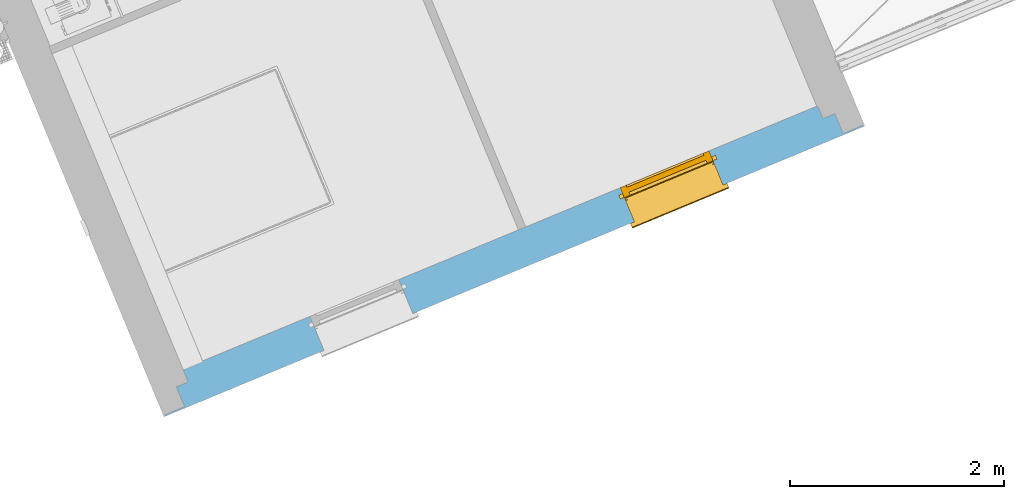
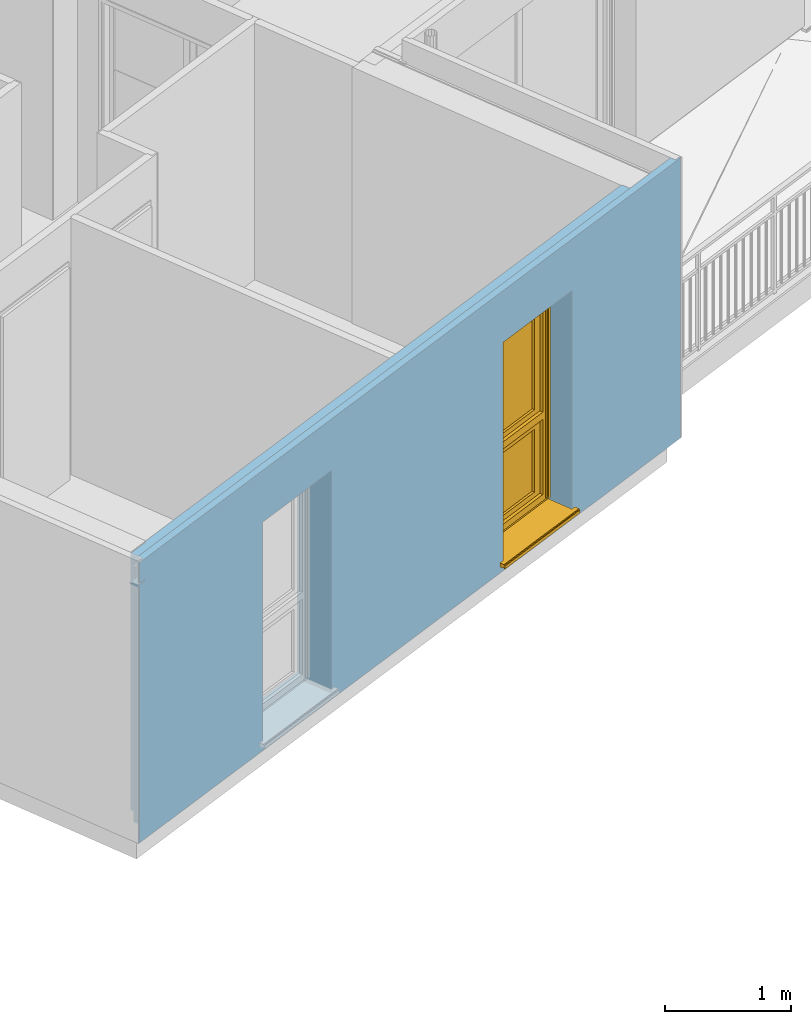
# One storey, part 11 of 91: 1 window, 2 openings, plus 1 element that does not belong to this part.
"""IFC2X3 building model written with IfcOpenShell, lengths in metres."""

from ifc_helpers import new_model, entity, si_unit, converted_unit, derived_unit, money_unit, direction, frame, origin_with_axes, place, context, subcontext, project, spatial, open_shell, faceted_brep, surface_model, source, transform, mapped, material, material_list, type_object, element, fill, save


model = new_model("IFC2X3")

# Units and contexts
model_context = context("Model", 3, precision=1e-05, world=origin_with_axes(), true_north=direction((0.0, 1.0)))
body_context = subcontext(model_context, "Body", "Model", "MODEL_VIEW")
ifc_project = project(units=[si_unit("LENGTHUNIT", "METRE"), si_unit("AREAUNIT", "SQUARE_METRE"), si_unit("VOLUMEUNIT", "CUBIC_METRE"), converted_unit("PLANEANGLEUNIT", "DEGREE", entity("IfcPlaneAngleMeasure", 0.0174532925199), si_unit("PLANEANGLEUNIT", "RADIAN"), dimensions=[0, 0, 0, 0, 0, 0, 0]), si_unit("SOLIDANGLEUNIT", "STERADIAN"), money_unit("EUR"), converted_unit("TIMEUNIT", "Year", entity("IfcTimeMeasure", 31556926.0), si_unit("TIMEUNIT", "SECOND"), dimensions=[0, 0, 1, 0, 0, 0, 0]), si_unit("MASSUNIT", "GRAM", prefix="KILO"), si_unit("THERMODYNAMICTEMPERATUREUNIT", "DEGREE_CELSIUS"), si_unit("LUMINOUSINTENSITYUNIT", "LUMEN"), si_unit("ENERGYUNIT", "JOULE", prefix="MEGA"), derived_unit("THERMALCONDUCTANCEUNIT", [(si_unit("POWERUNIT", "WATT"), 1), (si_unit("LENGTHUNIT", "METRE"), -1), (si_unit("THERMODYNAMICTEMPERATUREUNIT", "KELVIN"), -1)]), derived_unit("SPECIFICHEATCAPACITYUNIT", [(si_unit("ENERGYUNIT", "JOULE"), 1), (si_unit("MASSUNIT", "GRAM", prefix="KILO"), -1), (si_unit("THERMODYNAMICTEMPERATUREUNIT", "KELVIN"), -1)]), derived_unit("MASSDENSITYUNIT", [(si_unit("MASSUNIT", "GRAM", prefix="KILO"), 1), (si_unit("VOLUMEUNIT", "CUBIC_METRE"), -1)])], contexts=[model_context])

# Site, building, storey
site_placement = place(None, origin_with_axes())
site = spatial("IfcSite", under=ifc_project, at=site_placement, Name="Site", CompositionType="ELEMENT")
building_placement = place(site_placement, origin_with_axes())
building = spatial("IfcBuilding", under=site, at=building_placement, Name="Bâtiment", CompositionType="ELEMENT")
storey_placement = place(building_placement, frame((0.0, 0.0, 5.44), z_axis=(0.0, 0.0, 1.0), x_axis=(1.0, 0.0, 0.0)))
storey = spatial("IfcBuildingStorey", under=building, at=storey_placement, Name="R+2", CompositionType="ELEMENT", Elevation=5.44)

# Wall, openings, window
ifc_material_1 = material(Name="Finition int - Plaque de plâtre")
ifc_material_2 = material(Name="Isolation - Polystyrène extrudé")
ifc_material_3 = material(Name="Bloc ELITHERM")
ifc_material_4 = material(Name="Mortier")
ifc_material_5 = material(Name="Béton cellulaire")
ifc_material_6 = material(Name="Finition ext - Crépis")
ifc_material_list = material_list([ifc_material_1, ifc_material_2, ifc_material_3, ifc_material_4, ifc_material_5, ifc_material_6])
wall_type = type_object("IfcWallType", Name="Mur ALKERN + planelle 23 345 x 2720", PredefinedType="USERDEFINED")
wall_placement = place(storey_placement, frame((-20.1547284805, -28.2349360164, 0.0), z_axis=(0.0, 0.0, 1.0), x_axis=(0.923701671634, 0.383112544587, 0.0)))
wall = element("IfcWall", 1, at=wall_placement, inside=storey, type_object=wall_type, material=ifc_material_list, Name="Mue bloc ALKERN isolé", ObjectType="SOLIDWALL", context=body_context, shape_type="Brep", body=[
    faceted_brep([(0.53500001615, 0.335000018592, 2.3), (0.344999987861, 0.335000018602, 2.3), (0.344999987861, 0.334999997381, 0.0), (6.75719491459, 0.334999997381, 0.0), (6.75719491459, 0.334999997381, 2.49000000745), (0.53500001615, 0.335000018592, 2.49000000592), (1.6219994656, 0.335000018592, 2.22), (1.6219994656, 0.334999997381, 2.4), (2.5219994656, 0.334999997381, 2.4), (2.5219994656, 0.335000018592, 2.22), (2.5219994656, 0.335000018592, 0.12), (1.6219994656, 0.335000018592, 0.12), (4.76579728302, 0.335000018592, 2.22), (4.76579728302, 0.334999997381, 2.4), (5.66579728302, 0.334999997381, 2.4), (5.66579728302, 0.335000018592, 2.22), (5.66579728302, 0.335000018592, 0.12), (4.76579728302, 0.335000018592, 0.12), (0.535000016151, 0.344999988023, 2.3), (0.344999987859, 0.344999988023, 2.3), (0.344999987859, 0.344999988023, 0.0), (6.75719491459, 0.344999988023, 0.0), (6.75719491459, 0.344999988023, 2.49000000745), (0.535000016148, 0.344999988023, 2.49000000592), (1.6219994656, 0.344999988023, 2.22), (1.6219994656, 0.344999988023, 2.4), (1.6219994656, 0.344999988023, 0.12), (2.5219994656, 0.344999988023, 2.4), (2.5219994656, 0.344999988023, 2.22), (2.5219994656, 0.344999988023, 0.12), (4.76579728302, 0.344999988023, 2.22), (4.76579728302, 0.344999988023, 2.4), (4.76579728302, 0.344999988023, 0.12), (5.66579728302, 0.344999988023, 2.4), (5.66579728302, 0.344999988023, 2.22), (5.66579728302, 0.344999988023, 0.12)], [[[0, 1, 2, 3, 4, 5], [6, 7, 8, 9, 10, 11], [12, 13, 14, 15, 16, 17]], [[1, 0, 18, 19]], [[1, 19, 20, 2]], [[3, 2, 20, 21]], [[21, 22, 4, 3]], [[23, 5, 4, 22]], [[0, 5, 23, 18]], [[24, 25, 7, 6, 11, 26]], [[25, 27, 8, 7]], [[9, 8, 27, 28, 29, 10]], [[26, 11, 10, 29]], [[30, 31, 13, 12, 17, 32]], [[14, 13, 31, 33]], [[15, 14, 33, 34, 35, 16]], [[16, 35, 32, 17]], [[18, 23, 22, 21, 20, 19], [25, 24, 26, 29, 28, 27], [31, 30, 32, 35, 34, 33]]]),
    faceted_brep([(5.66579728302, 0.286, 0.12), (5.66579728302, 0.286, 0.06), (5.66579728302, 0.214999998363, 0.06), (5.66579728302, 0.214999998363, 0.12), (5.66579728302, 0.215, 2.22), (5.66579728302, 0.215, 2.4), (5.66579728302, 0.334999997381, 2.4), (5.66579728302, 0.334999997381, 2.22), (5.66579728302, 0.334999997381, 0.12), (4.76579728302, 0.286, 0.12), (4.76579728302, 0.286, 0.06), (4.76579728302, 0.214999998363, 0.06), (6.76719490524, 0.214999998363, 2.49000000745), (0.335000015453, 0.214999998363, 2.49), (0.335000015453, 0.214999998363, 0.0), (6.76719490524, 0.214999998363, 0.0), (2.5219994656, 0.215, 2.4), (2.5219994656, 0.215, 2.22), (2.5219994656, 0.214999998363, 0.12), (2.5219994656, 0.214999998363, 0.06), (1.6219994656, 0.214999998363, 0.06), (1.6219994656, 0.214999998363, 0.12), (1.6219994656, 0.215, 2.22), (1.6219994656, 0.215, 2.4), (4.76579728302, 0.214999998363, 0.12), (4.76579728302, 0.215, 2.22), (4.76579728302, 0.215, 2.4), (4.76579728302, 0.334999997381, 2.4), (6.76719490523, 0.334999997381, 0.0), (0.335000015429, 0.334999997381, 0.0), (0.335000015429, 0.334999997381, 2.49), (6.76719490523, 0.334999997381, 2.49000000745), (2.5219994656, 0.334999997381, 0.12), (2.5219994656, 0.334999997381, 2.22), (2.5219994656, 0.334999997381, 2.4), (1.6219994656, 0.334999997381, 2.4), (1.6219994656, 0.334999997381, 2.22), (1.6219994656, 0.334999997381, 0.12), (4.76579728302, 0.334999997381, 2.22), (4.76579728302, 0.334999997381, 0.12), (2.5219994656, 0.286, 0.12), (2.5219994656, 0.286, 0.06), (1.6219994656, 0.286, 0.06), (1.6219994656, 0.286, 0.12)], [[[0, 1, 2, 3, 4, 5, 6, 7, 8]], [[0, 9, 10, 1]], [[11, 2, 1, 10]], [[12, 13, 14, 15], [16, 17, 18, 19, 20, 21, 22, 23], [11, 24, 25, 26, 5, 4, 3, 2]], [[26, 27, 6, 5]], [[28, 29, 30, 31], [32, 33, 34, 35, 36, 37], [8, 7, 6, 27, 38, 39]], [[9, 0, 8, 39]], [[24, 11, 10, 9, 39, 38, 27, 26, 25]], [[31, 30, 13, 12]], [[29, 14, 13, 30]], [[15, 14, 29, 28]], [[28, 31, 12, 15]], [[34, 33, 32, 40, 41, 19, 18, 17, 16]], [[20, 19, 41, 42]], [[35, 23, 22, 21, 20, 42, 43, 37, 36]], [[23, 35, 34, 16]], [[43, 40, 32, 37]], [[40, 43, 42, 41]]]),
    faceted_brep([(5.66579728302, 0.215, 0.12), (5.66579728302, 0.215, 0.06), (5.66579728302, 0.015, 0.06), (5.66579728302, 0.015, 0.12), (5.66579728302, 0.015, 2.22), (5.66579728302, 0.215, 2.22), (0.214999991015, 0.215, 0.0), (0.214999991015, 0.215, 2.49), (6.88719490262, 0.215, 2.49000000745), (6.88719490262, 0.215, 0.0), (2.5219994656, 0.215, 0.06), (2.5219994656, 0.215, 0.12), (2.5219994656, 0.215, 2.22), (1.6219994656, 0.215, 2.22), (1.6219994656, 0.215, 0.12), (1.6219994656, 0.215, 0.06), (4.76579728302, 0.215, 2.22), (4.76579728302, 0.215, 0.12), (4.76579728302, 0.215, 0.06), (4.76579728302, 0.015, 0.06), (0.214999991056, 0.015, 2.49), (0.214999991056, 0.015, 0.0), (6.88719490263, 0.015, 0.0), (6.88719490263, 0.015, 2.49000000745), (1.6219994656, 0.015, 0.06), (1.6219994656, 0.015, 0.12), (1.6219994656, 0.015, 2.22), (2.5219994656, 0.015, 2.22), (2.5219994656, 0.015, 0.12), (2.5219994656, 0.015, 0.06), (4.76579728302, 0.015, 0.12), (4.76579728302, 0.015, 2.22), (0.214999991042, 0.0829999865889, 2.49), (6.88719490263, 0.0829999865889, 2.49000000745)], [[[0, 1, 2, 3, 4, 5]], [[6, 7, 8, 9], [10, 11, 12, 13, 14, 15], [1, 0, 5, 16, 17, 18]], [[19, 2, 1, 18]], [[20, 21, 22, 23], [24, 25, 26, 27, 28, 29], [19, 30, 31, 4, 3, 2]], [[31, 16, 5, 4]], [[7, 6, 21, 20, 32]], [[7, 32, 33, 8]], [[9, 8, 33, 23, 22]], [[21, 6, 9, 22]], [[11, 10, 29, 28, 27, 12]], [[12, 27, 26, 13]], [[25, 24, 15, 14, 13, 26]], [[10, 15, 24, 29]], [[30, 19, 18, 17, 16, 31]], [[32, 20, 23, 33]]]),
    faceted_brep([(7.01919490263, 0.015, 2.49), (7.01919490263, 0.015, 2.5), (1.60902011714e-08, 0.015, 2.5), (1.60902011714e-08, 0.015, 2.49), (7.01919490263, 0.083, 2.5), (7.01919490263, 0.083, 2.49), (1.60762709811e-08, 0.083, 2.5), (1.60762709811e-08, 0.083, 2.49)], [[[0, 1, 2, 3]], [[4, 1, 0, 5]], [[1, 4, 6, 2]], [[7, 3, 2, 6]], [[5, 0, 3, 7]], [[4, 5, 7, 6]]]),
    faceted_brep([(0.0630000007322, 0.0630000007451, 2.72), (0.063000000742, 0.015, 2.72), (7.03919490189, 0.015, 2.72), (7.03919490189, 0.0630000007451, 2.72), (0.063000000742, 0.015, 2.5200000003), (0.0630000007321, 0.0630000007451, 2.5200000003), (0.0829999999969, 0.015, 2.52), (0.0829999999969, 0.015, 2.51), (0.0149999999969, 0.015, 2.51), (0.0, 0.015, 2.50999999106), (1.60902011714e-08, 0.015, 2.5000000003), (7.03919490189, 0.015, 2.5000000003), (7.03919490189, 0.0630000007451, 2.5000000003), (1.608036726e-08, 0.0630000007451, 2.5000000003), (0.0, 0.0630000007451, 2.50999999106), (0.0149999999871, 0.0630000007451, 2.51), (0.0829999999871, 0.0630000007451, 2.51), (0.0829999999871, 0.0630000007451, 2.52)], [[[0, 1, 2, 3]], [[4, 1, 0, 5]], [[1, 4, 6, 7, 8, 9, 10, 11, 2]], [[3, 2, 11, 12]], [[5, 0, 3, 12, 13, 14, 15, 16, 17]], [[4, 5, 17, 6]], [[7, 6, 17, 16]], [[8, 7, 16, 15]], [[8, 15, 14, 9]], [[9, 14, 13, 10]], [[12, 11, 10, 13]]]),
    faceted_brep([(5.66579728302, 0.0149999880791, 0.12), (5.66579728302, 1.19209389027e-08, 0.12), (5.66579728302, 1.19209389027e-08, 2.22), (5.66579728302, 0.0149999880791, 2.22), (5.66579728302, 1.19209389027e-08, 0.06), (5.66579728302, 0.0149999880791, 0.06), (0.0150000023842, 1.19209389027e-08, 0.0), (7.08719491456, 0.0, 0.0), (7.08719491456, 0.0, 2.72), (0.0150000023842, 1.19209389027e-08, 2.72), (0.0150000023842, 1.19209389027e-08, 2.52), (0.083, 1.19209389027e-08, 2.52), (0.083, 1.19209389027e-08, 2.51), (0.0, 1.19209389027e-08, 2.50999999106), (0.0, 1.19209389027e-08, 2.49), (0.0150000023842, 1.19209389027e-08, 2.49), (1.6219994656, 1.19209389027e-08, 0.06), (1.6219994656, 0.0, 0.12), (1.6219994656, 0.0, 2.22), (2.5219994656, 0.0, 2.22), (2.5219994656, 0.0, 0.12), (2.5219994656, 1.19209389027e-08, 0.06), (4.76579728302, 1.19209424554e-08, 0.06), (4.76579728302, 1.19209389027e-08, 0.12), (4.76579728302, 1.19209424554e-08, 2.22), (4.76579728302, 0.0149999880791, 2.22), (0.0, 0.0149999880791, 2.50999999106), (0.0829999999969, 0.0149999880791, 2.51), (0.0829999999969, 0.0149999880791, 2.52), (0.0150000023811, 0.0149999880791, 2.52), (0.0150000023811, 0.0149999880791, 2.72), (7.08719491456, 0.0149999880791, 2.72), (7.08719491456, 0.0149999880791, 0.0), (0.0150000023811, 0.0149999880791, 0.0), (0.0150000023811, 0.0149999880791, 2.49), (0.0, 0.0149999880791, 2.49), (2.5219994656, 0.0149999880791, 0.06), (2.5219994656, 0.0149999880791, 0.12), (2.5219994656, 0.0149999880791, 2.22), (1.6219994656, 0.0149999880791, 2.22), (1.6219994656, 0.0149999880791, 0.12), (1.6219994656, 0.0149999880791, 0.06), (4.76579728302, 0.0149999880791, 0.12), (4.76579728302, 0.0149999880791, 0.06)], [[[0, 1, 2, 3]], [[4, 1, 0, 5]], [[6, 7, 8, 9, 10, 11, 12, 13, 14, 15], [16, 17, 18, 19, 20, 21], [22, 23, 24, 2, 1, 4]], [[24, 25, 3, 2]], [[26, 27, 28, 29, 30, 31, 32, 33, 34, 35], [36, 37, 38, 39, 40, 41], [5, 0, 3, 25, 42, 43]], [[22, 4, 5, 43]], [[7, 6, 33, 32]], [[32, 31, 8, 7]], [[31, 30, 9, 8]], [[29, 10, 9, 30]], [[11, 10, 29, 28]], [[27, 12, 11, 28]], [[13, 12, 27, 26]], [[14, 13, 26, 35]], [[34, 15, 14, 35]], [[33, 6, 15, 34]], [[16, 41, 40, 17]], [[39, 18, 17, 40]], [[38, 19, 18, 39]], [[19, 38, 37, 20]], [[37, 36, 21, 20]], [[36, 41, 16, 21]], [[42, 23, 22, 43]], [[23, 42, 25, 24]]]),
])
opening_1_placement = place(wall_placement, frame((2.0719994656, 0.0, 0.12), z_axis=(0.0, 0.0, 1.0), x_axis=(1.0, 0.0, 0.0)))
element("IfcOpeningElement", 2, at=opening_1_placement, cuts=wall, Name="MEN 90", context=body_context, shape_type="Brep", body=[
    faceted_brep([(-0.45, 0.834999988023, 0.0), (0.45, 0.834999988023, 0.0), (0.45, 0.245, 0.0), (-0.45, 0.245, 0.0), (-0.45, 0.834999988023, 2.1), (0.45, 0.834999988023, 2.1), (0.45, 0.245, 2.1), (-0.45, 0.245, 2.1)], [[[0, 1, 2, 3]], [[0, 4, 5, 1]], [[1, 5, 6, 2]], [[3, 2, 6, 7]], [[4, 0, 3, 7]], [[5, 4, 7, 6]]]),
    faceted_brep([(-0.45, -0.344999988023, 0.0), (-0.45, -0.344999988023, 2.1), (-0.45, 0.245, 2.1), (-0.45, 0.245, 0.0), (0.45, -0.344999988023, 0.0), (0.45, -0.344999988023, 2.1), (0.45, 0.245, 2.1), (0.45, 0.245, 0.0)], [[[0, 1, 2, 3]], [[0, 4, 5, 1]], [[1, 5, 6, 2]], [[3, 2, 6, 7]], [[4, 0, 3, 7]], [[5, 4, 7, 6]]]),
    faceted_brep([(-0.45, -0.344999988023, 0.0), (-0.45, -0.344999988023, 2.1), (-0.45, 0.245, 2.1), (-0.45, 0.245, 0.0), (0.45, -0.344999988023, 0.0), (0.45, -0.344999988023, 2.1), (0.45, 0.245, 2.1), (0.45, 0.245, 0.0)], [[[0, 1, 2, 3]], [[0, 4, 5, 1]], [[1, 5, 6, 2]], [[3, 2, 6, 7]], [[4, 0, 3, 7]], [[5, 4, 7, 6]]]),
    faceted_brep([(-0.45, 0.804999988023, 2.1), (0.45, 0.804999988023, 2.1), (0.45, 0.215, 2.1), (-0.45, 0.215, 2.1), (-0.45, 0.804999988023, 2.28), (0.45, 0.804999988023, 2.28), (0.45, 0.215, 2.28), (-0.45, 0.215, 2.28)], [[[0, 1, 2, 3]], [[0, 4, 5, 1]], [[1, 5, 6, 2]], [[3, 2, 6, 7]], [[4, 0, 3, 7]], [[5, 4, 7, 6]]]),
    faceted_brep([(-0.45, -0.303999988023, 0.0), (0.45, -0.303999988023, 0.0), (0.45, 0.286, 0.0), (-0.45, 0.286, 0.0), (-0.45, -0.303999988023, -0.06), (0.45, -0.303999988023, -0.06), (0.45, 0.286, -0.06), (-0.45, 0.286, -0.06)], [[[0, 1, 2, 3]], [[0, 4, 5, 1]], [[1, 5, 6, 2]], [[3, 2, 6, 7]], [[4, 0, 3, 7]], [[5, 4, 7, 6]]]),
])
opening_2_placement = place(wall_placement, frame((5.21579728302, 0.0, 0.12), z_axis=(0.0, 0.0, 1.0), x_axis=(1.0, 0.0, 0.0)))
opening_2 = element("IfcOpeningElement", 3, at=opening_2_placement, cuts=wall, Name="MEN 91", context=body_context, shape_type="Brep", body=[
    faceted_brep([(0.45, 0.245, 0.0), (-0.45, 0.245, 0.0), (-0.45, 0.834999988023, 0.0), (0.45, 0.834999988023, 0.0), (0.45, 0.245, 2.1), (-0.45, 0.245, 2.1), (-0.45, 0.834999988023, 2.1), (0.45, 0.834999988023, 2.1)], [[[0, 1, 2, 3]], [[0, 4, 5, 1]], [[1, 5, 6, 2]], [[3, 2, 6, 7]], [[4, 0, 3, 7]], [[5, 4, 7, 6]]]),
    faceted_brep([(0.45, 0.245, 0.0), (0.45, 0.245, 2.1), (0.45, -0.344999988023, 2.1), (0.45, -0.344999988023, 0.0), (-0.45, 0.245, 0.0), (-0.45, 0.245, 2.1), (-0.45, -0.344999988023, 2.1), (-0.45, -0.344999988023, 0.0)], [[[0, 1, 2, 3]], [[0, 4, 5, 1]], [[1, 5, 6, 2]], [[3, 2, 6, 7]], [[4, 0, 3, 7]], [[5, 4, 7, 6]]]),
    faceted_brep([(0.45, 0.245, 0.0), (0.45, 0.245, 2.1), (0.45, -0.344999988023, 2.1), (0.45, -0.344999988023, 0.0), (-0.45, 0.245, 0.0), (-0.45, 0.245, 2.1), (-0.45, -0.344999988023, 2.1), (-0.45, -0.344999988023, 0.0)], [[[0, 1, 2, 3]], [[0, 4, 5, 1]], [[1, 5, 6, 2]], [[3, 2, 6, 7]], [[4, 0, 3, 7]], [[5, 4, 7, 6]]]),
    faceted_brep([(0.45, 0.215, 2.1), (-0.45, 0.215, 2.1), (-0.45, 0.804999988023, 2.1), (0.45, 0.804999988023, 2.1), (0.45, 0.215, 2.28), (-0.45, 0.215, 2.28), (-0.45, 0.804999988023, 2.28), (0.45, 0.804999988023, 2.28)], [[[0, 1, 2, 3]], [[0, 4, 5, 1]], [[1, 5, 6, 2]], [[3, 2, 6, 7]], [[4, 0, 3, 7]], [[5, 4, 7, 6]]]),
    faceted_brep([(0.45, 0.286, 0.0), (-0.45, 0.286, 0.0), (-0.45, -0.303999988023, 0.0), (0.45, -0.303999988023, 0.0), (0.45, 0.286, -0.06), (-0.45, 0.286, -0.06), (-0.45, -0.303999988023, -0.06), (0.45, -0.303999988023, -0.06)], [[[0, 1, 2, 3]], [[0, 4, 5, 1]], [[1, 5, 6, 2]], [[3, 2, 6, 7]], [[4, 0, 3, 7]], [[5, 4, 7, 6]]]),
])
window_style = type_object("IfcWindowStyle", Name="Baie générique 2017 v2", ConstructionType="NOTDEFINED", OperationType="NOTDEFINED", ParameterTakesPrecedence=False, Sizeable=False)
shared_shape = source(origin_with_axes(), body_context, "Body", "SurfaceModel", [
    faceted_brep([(0.45, 0.0, 2.1), (-0.45, 0.0, 2.1), (-0.45, 0.0, 0.0), (0.45, 0.0, 0.0), (-0.39, 0.0, 0.85), (-0.39, 0.0, 2.05), (0.39, 0.0, 2.05), (0.39, 0.0, 0.85), (-0.39, 0.0, 0.78), (0.39, 0.0, 0.78), (0.39, 0.0, 0.05), (-0.39, 0.0, 0.05), (0.45, 0.1, 2.1), (-0.45, 0.1, 2.1), (-0.45, 0.1, 0.0), (0.45, 0.1, 0.0), (-0.39, 0.1, 0.85), (-0.39, 0.1, 2.05), (0.39, 0.1, 2.05), (0.39, 0.1, 0.85), (-0.39, 0.1, 0.78), (0.39, 0.1, 0.78), (0.39, 0.1, 0.05), (-0.39, 0.1, 0.05)], [[[0, 1, 2, 3], [4, 5, 6, 7], [8, 9, 10, 11]], [[1, 0, 12, 13]], [[2, 1, 13, 14]], [[3, 2, 14, 15]], [[0, 3, 15, 12]], [[16, 17, 5, 4]], [[6, 5, 17, 18]], [[7, 6, 18, 19]], [[4, 7, 19, 16]], [[20, 21, 9, 8]], [[21, 22, 10, 9]], [[11, 10, 22, 23]], [[8, 11, 23, 20]], [[14, 13, 12, 15], [16, 19, 18, 17], [20, 23, 22, 21]]]),
    faceted_brep([(-0.39, 0.08, 2.05), (0.39, 0.08, 2.05), (0.39, 0.08, 0.85), (-0.39, 0.08, 0.85), (-0.32, 0.08, 1.98), (-0.32, 0.08, 0.9), (0.32, 0.08, 0.9), (0.32, 0.08, 1.98), (-0.39, 0.03, 2.05), (0.39, 0.03, 2.05), (0.39, 0.03, 0.85), (-0.39, 0.03, 0.85), (-0.32, 0.03, 1.98), (-0.32, 0.03, 0.9), (0.32, 0.03, 0.9), (0.32, 0.03, 1.98)], [[[0, 1, 2, 3], [4, 5, 6, 7]], [[0, 8, 9, 1]], [[9, 10, 2, 1]], [[10, 11, 3, 2]], [[3, 11, 8, 0]], [[4, 12, 13, 5]], [[13, 14, 6, 5]], [[14, 15, 7, 6]], [[7, 15, 12, 4]], [[9, 8, 11, 10], [13, 12, 15, 14]]]),
    surface_model("IfcShellBasedSurfaceModel", [(0.39, 0.08, 0.85), (0.39, 0.08, 2.05), (0.39, 0.055, 2.05), (0.39, 0.055, 0.85)], [open_shell([[[0, 1, 2, 3]]])]),
    surface_model("IfcShellBasedSurfaceModel", [(-0.39, 0.08, 0.85), (-0.39, 0.08, 2.05), (-0.39, 0.055, 2.05), (-0.39, 0.055, 0.85)], [open_shell([[[0, 1, 2, 3]]])]),
    surface_model("IfcShellBasedSurfaceModel", [(0.39, 0.08, 0.85), (-0.39, 0.08, 0.85), (-0.39, 0.055, 0.85), (0.39, 0.055, 0.85)], [open_shell([[[0, 1, 2, 3]]])]),
    surface_model("IfcShellBasedSurfaceModel", [(0.39, 0.08, 2.05), (-0.39, 0.08, 2.05), (-0.39, 0.055, 2.05), (0.39, 0.055, 2.05)], [open_shell([[[0, 1, 2, 3]]])]),
    surface_model("IfcShellBasedSurfaceModel", [(0.39, 0.055, 0.85), (0.39, 0.055, 2.05), (0.39, 0.03, 2.05), (0.39, 0.03, 0.85)], [open_shell([[[0, 1, 2, 3]]])]),
    surface_model("IfcShellBasedSurfaceModel", [(-0.39, 0.055, 0.85), (-0.39, 0.055, 2.05), (-0.39, 0.03, 2.05), (-0.39, 0.03, 0.85)], [open_shell([[[0, 1, 2, 3]]])]),
    surface_model("IfcShellBasedSurfaceModel", [(0.39, 0.055, 0.85), (-0.39, 0.055, 0.85), (-0.39, 0.03, 0.85), (0.39, 0.03, 0.85)], [open_shell([[[0, 1, 2, 3]]])]),
    surface_model("IfcShellBasedSurfaceModel", [(0.39, 0.055, 2.05), (-0.39, 0.055, 2.05), (-0.39, 0.03, 2.05), (0.39, 0.03, 2.05)], [open_shell([[[0, 1, 2, 3]]])]),
    faceted_brep([(0.32, 0.0575, 0.9), (0.32, 0.0525, 0.9), (-0.32, 0.0525, 0.9), (-0.32, 0.0575, 0.9), (0.32, 0.0575, 1.98), (0.32, 0.0525, 1.98), (-0.32, 0.0525, 1.98), (-0.32, 0.0575, 1.98)], [[[0, 1, 2, 3]], [[4, 5, 1, 0]], [[1, 5, 6, 2]], [[3, 2, 6, 7]], [[0, 3, 7, 4]], [[7, 6, 5, 4]]]),
    faceted_brep([(-0.39, 0.08, 0.78), (0.39, 0.08, 0.78), (0.39, 0.08, 0.05), (-0.39, 0.08, 0.05), (-0.32, 0.08, 0.71), (-0.32, 0.08, 0.1), (0.32, 0.08, 0.1), (0.32, 0.08, 0.71), (-0.39, 0.03, 0.78), (0.39, 0.03, 0.78), (0.39, 0.03, 0.05), (-0.39, 0.03, 0.05), (-0.32, 0.03, 0.71), (-0.32, 0.03, 0.1), (0.32, 0.03, 0.1), (0.32, 0.03, 0.71)], [[[0, 1, 2, 3], [4, 5, 6, 7]], [[0, 8, 9, 1]], [[9, 10, 2, 1]], [[10, 11, 3, 2]], [[3, 11, 8, 0]], [[4, 12, 13, 5]], [[13, 14, 6, 5]], [[14, 15, 7, 6]], [[7, 15, 12, 4]], [[9, 8, 11, 10], [13, 12, 15, 14]]]),
    surface_model("IfcShellBasedSurfaceModel", [(0.39, 0.08, 0.05), (0.39, 0.08, 0.78), (0.39, 0.055, 0.78), (0.39, 0.055, 0.05)], [open_shell([[[0, 1, 2, 3]]])]),
    surface_model("IfcShellBasedSurfaceModel", [(-0.39, 0.08, 0.05), (-0.39, 0.08, 0.78), (-0.39, 0.055, 0.78), (-0.39, 0.055, 0.05)], [open_shell([[[0, 1, 2, 3]]])]),
    surface_model("IfcShellBasedSurfaceModel", [(0.39, 0.08, 0.05), (-0.39, 0.08, 0.05), (-0.39, 0.055, 0.05), (0.39, 0.055, 0.05)], [open_shell([[[0, 1, 2, 3]]])]),
    surface_model("IfcShellBasedSurfaceModel", [(0.39, 0.08, 0.78), (-0.39, 0.08, 0.78), (-0.39, 0.055, 0.78), (0.39, 0.055, 0.78)], [open_shell([[[0, 1, 2, 3]]])]),
    surface_model("IfcShellBasedSurfaceModel", [(0.39, 0.055, 0.05), (0.39, 0.055, 0.78), (0.39, 0.03, 0.78), (0.39, 0.03, 0.05)], [open_shell([[[0, 1, 2, 3]]])]),
    surface_model("IfcShellBasedSurfaceModel", [(-0.39, 0.055, 0.05), (-0.39, 0.055, 0.78), (-0.39, 0.03, 0.78), (-0.39, 0.03, 0.05)], [open_shell([[[0, 1, 2, 3]]])]),
    surface_model("IfcShellBasedSurfaceModel", [(0.39, 0.055, 0.05), (-0.39, 0.055, 0.05), (-0.39, 0.03, 0.05), (0.39, 0.03, 0.05)], [open_shell([[[0, 1, 2, 3]]])]),
    surface_model("IfcShellBasedSurfaceModel", [(0.39, 0.055, 0.78), (-0.39, 0.055, 0.78), (-0.39, 0.03, 0.78), (0.39, 0.03, 0.78)], [open_shell([[[0, 1, 2, 3]]])]),
    faceted_brep([(0.32, 0.0575, 0.1), (0.32, 0.0525, 0.1), (-0.32, 0.0525, 0.1), (-0.32, 0.0575, 0.1), (0.32, 0.0575, 0.71), (0.32, 0.0525, 0.71), (-0.32, 0.0525, 0.71), (-0.32, 0.0575, 0.71)], [[[0, 1, 2, 3]], [[4, 5, 1, 0]], [[1, 5, 6, 2]], [[3, 2, 6, 7]], [[0, 3, 7, 4]], [[7, 6, 5, 4]]]),
    faceted_brep([(0.45, -0.03, 0.0), (0.45, -0.03, 2.1), (0.425, -0.03, 2.1), (0.425, -0.03, 0.0), (0.45, -0.002, 0.0), (0.45, -0.002, 2.1), (0.425, -0.002, 2.1), (0.425, -0.004, 2.1), (0.448, -0.004, 2.1), (0.448, -0.028, 2.1), (0.425, -0.028, 2.1), (0.425, -0.028, 0.0), (0.448, -0.028, 0.0), (0.448, -0.004, 0.0), (0.425, -0.004, 0.0), (0.425, -0.002, 0.0)], [[[0, 1, 2, 3]], [[4, 5, 1, 0]], [[1, 5, 6, 7, 8, 9, 10, 2]], [[3, 2, 10, 11]], [[0, 3, 11, 12, 13, 14, 15, 4]], [[15, 6, 5, 4]], [[14, 7, 6, 15]], [[13, 8, 7, 14]], [[12, 9, 8, 13]], [[11, 10, 9, 12]]]),
    faceted_brep([(-0.45, -0.03, 0.0), (-0.425, -0.03, 0.0), (-0.425, -0.03, 2.1), (-0.45, -0.03, 2.1), (-0.45, -0.002, 0.0), (-0.425, -0.002, 0.0), (-0.425, -0.004, 0.0), (-0.448, -0.004, 0.0), (-0.448, -0.028, 0.0), (-0.425, -0.028, 0.0), (-0.425, -0.028, 2.1), (-0.448, -0.028, 2.1), (-0.448, -0.004, 2.1), (-0.425, -0.004, 2.1), (-0.425, -0.002, 2.1), (-0.45, -0.002, 2.1)], [[[0, 1, 2, 3]], [[0, 4, 5, 6, 7, 8, 9, 1]], [[1, 9, 10, 2]], [[3, 2, 10, 11, 12, 13, 14, 15]], [[4, 0, 3, 15]], [[5, 4, 15, 14]], [[6, 5, 14, 13]], [[7, 6, 13, 12]], [[8, 7, 12, 11]], [[9, 8, 11, 10]]]),
    faceted_brep([(-0.448, -0.028, 2.1), (-0.448, -0.028, 2.278), (0.448, -0.028, 2.278), (0.448, -0.028, 2.1), (-0.448, -0.03, 2.1), (-0.448, -0.03, 2.28), (-0.448, 0.17, 2.28), (-0.448, 0.17, 2.1), (-0.448, 0.168, 2.1), (-0.448, 0.168, 2.278), (0.448, 0.168, 2.278), (0.448, 0.168, 2.1), (0.448, 0.17, 2.1), (0.448, 0.17, 2.28), (0.448, -0.03, 2.28), (0.448, -0.03, 2.1)], [[[0, 1, 2, 3]], [[0, 4, 5, 6, 7, 8, 9, 1]], [[1, 9, 10, 2]], [[3, 2, 10, 11, 12, 13, 14, 15]], [[4, 0, 3, 15]], [[5, 4, 15, 14]], [[6, 5, 14, 13]], [[7, 6, 13, 12]], [[8, 7, 12, 11]], [[9, 8, 11, 10]]]),
    faceted_brep([(-0.448, 0.0724697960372, 2.17436337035), (-0.448, 0.0555495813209, 2.17050144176), (-0.448, 0.041980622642, 2.18132232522), (-0.448, 0.041980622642, 2.19867767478), (-0.448, 0.0555495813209, 2.20949855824), (-0.448, 0.0724697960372, 2.20563662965), (-0.448, 0.08, 2.19), (0.448, 0.0724697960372, 2.17436337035), (0.448, 0.0555495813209, 2.17050144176), (0.448, 0.041980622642, 2.18132232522), (0.448, 0.041980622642, 2.19867767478), (0.448, 0.0555495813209, 2.20949855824), (0.448, 0.0724697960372, 2.20563662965), (0.448, 0.08, 2.19)], [[[0, 1, 2, 3, 4, 5, 6]], [[1, 0, 7, 8]], [[2, 1, 8, 9]], [[3, 2, 9, 10]], [[4, 3, 10, 11]], [[5, 4, 11, 12]], [[6, 5, 12, 13]], [[0, 6, 13, 7]], [[7, 13, 12, 11, 10, 9, 8]]]),
    faceted_brep([(-0.438, 0.130275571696, 2.15615706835), (-0.438, 0.108632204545, 2.12901714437), (-0.438, 0.0773566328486, 2.11395562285), (-0.438, 0.0426433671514, 2.11395562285), (-0.438, 0.011367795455, 2.12901714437), (-0.438, -0.0102755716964, 2.15615706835), (-0.438, -0.018, 2.19), (-0.438, -0.0102755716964, 2.22384293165), (-0.438, 0.011367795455, 2.25098285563), (-0.438, 0.0426433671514, 2.26604437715), (-0.438, 0.0773566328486, 2.26604437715), (-0.438, 0.108632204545, 2.25098285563), (-0.438, 0.130275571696, 2.22384293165), (-0.438, 0.138, 2.19), (0.438, 0.130275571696, 2.15615706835), (0.438, 0.108632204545, 2.12901714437), (0.438, 0.0773566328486, 2.11395562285), (0.438, 0.0426433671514, 2.11395562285), (0.438, 0.011367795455, 2.12901714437), (0.438, -0.0102755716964, 2.15615706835), (0.438, -0.018, 2.19), (0.438, -0.0102755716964, 2.22384293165), (0.438, 0.011367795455, 2.25098285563), (0.438, 0.0426433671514, 2.26604437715), (0.438, 0.0773566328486, 2.26604437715), (0.438, 0.108632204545, 2.25098285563), (0.438, 0.130275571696, 2.22384293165), (0.438, 0.138, 2.19)], [[[0, 1, 2, 3, 4, 5, 6, 7, 8, 9, 10, 11, 12, 13]], [[1, 0, 14, 15]], [[2, 1, 15, 16]], [[3, 2, 16, 17]], [[4, 3, 17, 18]], [[5, 4, 18, 19]], [[6, 5, 19, 20]], [[7, 6, 20, 21]], [[8, 7, 21, 22]], [[9, 8, 22, 23]], [[10, 9, 23, 24]], [[11, 10, 24, 25]], [[12, 11, 25, 26]], [[13, 12, 26, 27]], [[0, 13, 27, 14]], [[14, 27, 26, 25, 24, 23, 22, 21, 20, 19, 18, 17, 16, 15]]]),
    faceted_brep([(-0.45, 0.17, 2.1), (-0.45, 0.17, 2.28), (-0.448, 0.17, 2.28), (-0.448, 0.17, 2.1), (-0.45, -0.03, 2.1), (-0.45, -0.03, 2.28), (-0.448, -0.03, 2.28), (-0.448, -0.03, 2.1)], [[[0, 1, 2, 3]], [[0, 4, 5, 1]], [[1, 5, 6, 2]], [[3, 2, 6, 7]], [[4, 0, 3, 7]], [[5, 4, 7, 6]]]),
    faceted_brep([(0.448, 0.17, 2.1), (0.448, 0.17, 2.28), (0.45, 0.17, 2.28), (0.45, 0.17, 2.1), (0.448, -0.03, 2.1), (0.448, -0.03, 2.28), (0.45, -0.03, 2.28), (0.45, -0.03, 2.1)], [[[0, 1, 2, 3]], [[0, 4, 5, 1]], [[1, 5, 6, 2]], [[3, 2, 6, 7]], [[4, 0, 3, 7]], [[5, 4, 7, 6]]]),
    faceted_brep([(-0.448, -0.004, 2.1), (-0.448, 0.168, 2.1), (0.448, 0.168, 2.1), (0.448, -0.004, 2.1), (-0.448, -0.004, 2.102), (-0.448, 0.168, 2.102), (0.448, 0.168, 2.102), (0.448, -0.004, 2.102)], [[[0, 1, 2, 3]], [[0, 4, 5, 1]], [[1, 5, 6, 2]], [[3, 2, 6, 7]], [[4, 0, 3, 7]], [[5, 4, 7, 6]]]),
    faceted_brep([(-0.438, -0.006, 2.1), (-0.438, -0.006, 2.19), (0.438, -0.006, 2.19), (0.438, -0.006, 2.1), (-0.438, -0.026, 2.1), (-0.438, -0.026, 2.19), (0.438, -0.026, 2.19), (0.438, -0.026, 2.1)], [[[0, 1, 2, 3]], [[1, 0, 4, 5]], [[2, 1, 5, 6]], [[3, 2, 6, 7]], [[4, 0, 3, 7]], [[5, 4, 7, 6]]]),
    faceted_brep([(-0.45, -0.00167949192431, -0.01), (0.45, -0.00167949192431, -0.01), (0.45, 0.0, -0.00373205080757), (0.49, 0.0, -0.00373205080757), (0.49, 0.001, 0.0), (-0.49, 0.001, 0.0), (-0.49, 0.0, -0.00373205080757), (-0.45, 0.0, -0.00373205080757), (-0.45, -0.009, -0.0173205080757), (0.45, -0.009, -0.0173205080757), (0.45, -0.245, -0.02), (0.45, -0.245, -0.06), (0.45, 0.0, -0.06), (0.45, -0.019, -0.02), (0.49, 0.0, -0.06), (0.49, 0.041, -0.06), (0.49, 0.041, 0.0), (-0.49, 0.041, 0.0), (-0.49, 0.041, -0.06), (-0.49, 0.0, -0.06), (-0.45, 0.0, -0.06), (-0.45, -0.245, -0.06), (-0.45, -0.245, -0.02), (-0.45, -0.019, -0.02), (0.49, -0.245, -0.02), (0.49, -0.245, -0.06), (0.49, -0.275, -0.06), (-0.49, -0.275, -0.06), (-0.49, -0.245, -0.06), (-0.49, -0.245, -0.02), (-0.49, -0.285, -0.02), (0.49, -0.285, -0.02), (0.49, -0.295, -0.03), (0.49, -0.295, -0.06), (0.49, -0.285, -0.06), (0.49, -0.285, -0.05), (0.49, -0.275, -0.05), (0.49, -0.292071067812, -0.0229289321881), (-0.49, -0.275, -0.05), (-0.49, -0.285, -0.05), (-0.49, -0.285, -0.06), (-0.49, -0.295, -0.06), (-0.49, -0.295, -0.03), (-0.49, -0.292071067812, -0.0229289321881)], [[[0, 1, 2, 3, 4, 5, 6, 7]], [[8, 9, 1, 0]], [[10, 11, 12, 2, 1, 9, 13]], [[3, 2, 12, 14]], [[4, 3, 14, 15, 16]], [[16, 17, 5, 4]], [[6, 5, 17, 18, 19]], [[19, 20, 7, 6]], [[7, 20, 21, 22, 23, 8, 0]], [[23, 13, 9, 8]], [[10, 24, 25, 11]], [[21, 20, 19, 18, 15, 14, 12, 11, 25, 26, 27, 28]], [[22, 29, 30, 31, 24, 10, 13, 23]], [[15, 18, 17, 16]], [[22, 21, 28, 29]], [[32, 33, 34, 35, 36, 26, 25, 24, 31, 37]], [[36, 38, 27, 26]], [[28, 27, 38, 39, 40, 41, 42, 43, 30, 29]], [[31, 30, 43, 37]], [[32, 42, 41, 33]], [[33, 41, 40, 34]], [[34, 40, 39, 35]], [[35, 39, 38, 36]], [[37, 43, 42, 32]]]),
])
window_placement = place(opening_2_placement, frame((-0.45, 0.0, 0.0), z_axis=(0.0, 0.0, 1.0), x_axis=(1.0, 0.0, 0.0)))
window = element("IfcWindow", 4, at=window_placement, inside=storey, type_object=window_style, Name="MEN 91", ObjectType="WINDOW", OverallHeight=2.1, OverallWidth=0.9, context=body_context, shape_type="MappedRepresentation", body=[
    mapped(shared_shape, transform((0.45, 0.245, 0.0))),
])
fill(opening_2, window)

save(model, "model.ifc")
